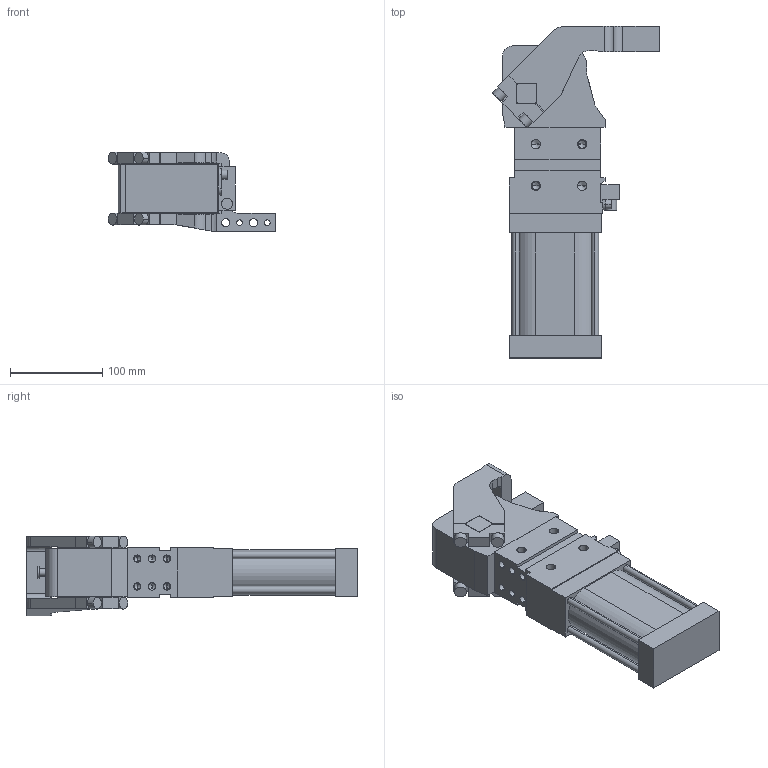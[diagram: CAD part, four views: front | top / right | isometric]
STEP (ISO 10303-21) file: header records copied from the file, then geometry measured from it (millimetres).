
FILE_DESCRIPTION (( 'STEP AP214' ), '1' );
FILE_NAME ('cpl63v3dsi1g_26.STEP', '2023-01-26T10:41:46', ( '' ), ( '' ), 'SwSTEP 2.0', 'SolidWorks 2022', '' );
FILE_SCHEMA (( 'AUTOMOTIVE_DESIGN' ));
Length unit declared in the file: millimetre
Products named in the file (4): leva_sx_offset_45_cpl63; cpl63v3dsi1g_26; blocchetto_VEP_0; meccanica_cpl_63
Assembly tree (3 placements, depth 2):
  cpl63v3dsi1g_26
    meccanica_cpl_63
    blocchetto_VEP_0
    leva_sx_offset_45_cpl63
Bounding box: 181.09 x 359.5 x 86.5 mm (x, y, z)
Volume: 1808979.7 mm3; surface area: 193736.5 mm2
Topology: 3 solids, 3 shells, 398 faces, 1043 edges, 643 vertices
Faces by surface type: plane 200, cylinder 148, cone 50
Entity records: 13503 total; most frequent: CARTESIAN_POINT 2144, DIRECTION 2114, ORIENTED_EDGE 1994, EDGE_CURVE 997, AXIS2_PLACEMENT_3D 727, VECTOR 660, LINE 660, VERTEX_POINT 643
